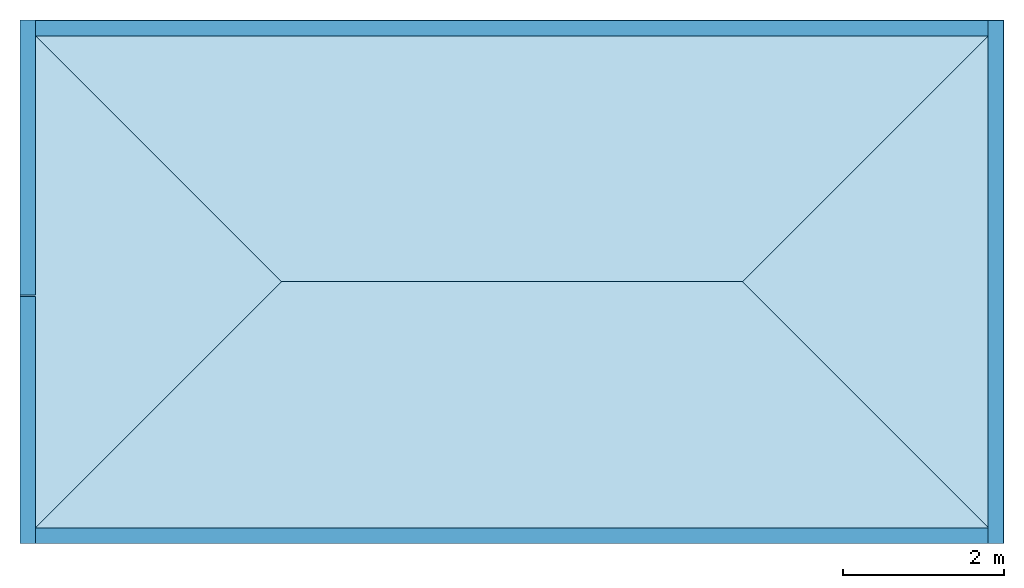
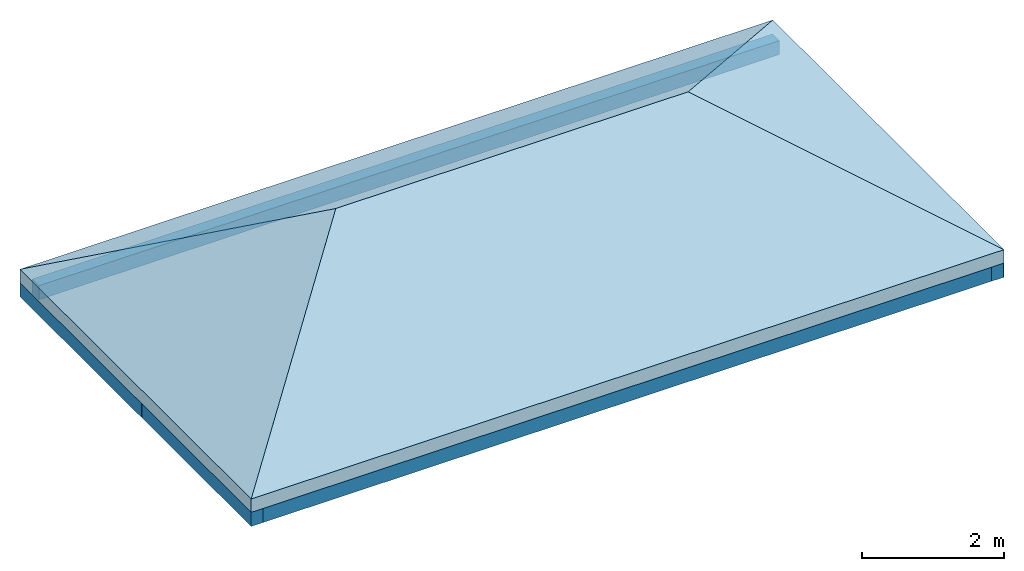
# One storey: 5 beams, 4 slabs, 6 elements without a shape of their own.
"""IFC2X3 building model written with IfcOpenShell, lengths in metres."""

import ifcopenshell
import ifcopenshell.guid

model = None  # the IFC model being written
_history = None  # IfcOwnerHistory: only IFC2X3 demands one
_inside = {}  # id of a spatial element -> (the spatial element, [elements in it])
_under = {}  # id of a project, library or spatial element -> (it, [spatial elements below it])
_declared = {}  # id of a project -> (the project, [libraries it declares])
_typed = {}  # id of a type object -> (the type object, [elements of that type])
_made_of = {}  # id of a material, layer set ... -> (it, [elements and type objects made of it])


def new_model(schema):
    """Start an empty IFC model of exactly this schema.

    Asked for "IFC4X3", IfcOpenShell would pick the latest addendum, in which some entities
    have other attributes; the version numbers below select the first issue.
    IFC2X3 requires an IfcOwnerHistory on every rooted entity: one is made here for all.
    """
    global model, _history
    if schema == "IFC4X3":
        model = ifcopenshell.file(schema_version=(4, 3, 0, 0))
    else:
        model = ifcopenshell.file(schema=schema)
    _inside.clear()
    _under.clear()
    _declared.clear()
    _typed.clear()
    _made_of.clear()
    _history = None
    if model.schema == "IFC2X3":
        org = make("IfcOrganization", Name="unknown")
        user = make(
            "IfcPersonAndOrganization",
            ThePerson=make("IfcPerson", FamilyName="unknown"),
            TheOrganization=org,
        )
        app = make(
            "IfcApplication",
            ApplicationDeveloper=org,
            Version="unknown",
            ApplicationFullName="unknown",
            ApplicationIdentifier="unknown",
        )
        _history = make(
            "IfcOwnerHistory",
            OwningUser=user,
            OwningApplication=app,
            ChangeAction="ADDED",
            CreationDate=0,
        )
    return model


def make(cls, **values):
    """One entity of the class cls with the attributes given. An attribute that is None is left unset."""
    return model.create_entity(
        cls, **{name: value for name, value in values.items() if value is not None}
    )


def entity(cls, *values):
    """Any entity or typed value of the class cls, its attributes in the order of the schema. None: left unset."""
    e = model.create_entity(cls)
    for i, value in enumerate(values):
        if value is not None:
            e[i] = value
    return e


def rooted(cls, **values):
    """An entity with a GlobalId (a new one), such as an element, a storey or a relation."""
    return make(cls, GlobalId=ifcopenshell.guid.new(), OwnerHistory=_history, **values)


def si_unit(unit_type, name, prefix=None):
    """IfcSIUnit, for example si_unit("LENGTHUNIT", "METRE", prefix="MILLI")."""
    return make("IfcSIUnit", UnitType=unit_type, Prefix=prefix, Name=name)


def converted_unit(unit_type, name, factor, base, dimensions=None, offset=None):
    """IfcConversionBasedUnit, such as the inch: factor (a typed value) times the base unit."""
    return make(
        "IfcConversionBasedUnit"
        if offset is None
        else "IfcConversionBasedUnitWithOffset",
        ConversionOffset=offset,
        Dimensions=None
        if dimensions is None
        else entity("IfcDimensionalExponents", *dimensions),
        UnitType=unit_type,
        Name=name,
        ConversionFactor=make(
            "IfcMeasureWithUnit", ValueComponent=factor, UnitComponent=base
        ),
    )


def derived_unit(unit_type, elements):
    """IfcDerivedUnit: a product of units, each with its exponent."""
    return make(
        "IfcDerivedUnit",
        Elements=[
            make("IfcDerivedUnitElement", Unit=unit, Exponent=power)
            for unit, power in elements
        ],
        UnitType=unit_type,
    )


def assignment(units):
    """IfcUnitAssignment: the units of a project."""
    return None if units is None else make("IfcUnitAssignment", Units=units)


def point(xyz):
    """IfcCartesianPoint."""
    return None if xyz is None else make("IfcCartesianPoint", Coordinates=xyz)


def direction(xyz):
    """IfcDirection."""
    return None if xyz is None else make("IfcDirection", DirectionRatios=xyz)


def frame(location, z_axis=None, x_axis=None):
    """IfcAxis2Placement3D, a coordinate frame: its origin and axes. An axis left out is left unset."""
    return make(
        "IfcAxis2Placement3D",
        Location=point(location),
        Axis=direction(z_axis),
        RefDirection=direction(x_axis),
    )


def frame_2d(location, x_axis=None):
    """IfcAxis2Placement2D, a coordinate frame in the plane: its origin and x axis."""
    return make(
        "IfcAxis2Placement2D", Location=point(location), RefDirection=direction(x_axis)
    )


def origin():
    """The frame at (0, 0, 0) with its axes left unset."""
    return frame((0.0, 0.0, 0.0))


def origin_2d_with_axis():
    """The frame at (0, 0) in the plane with the x axis (1, 0) written out."""
    return frame_2d((0.0, 0.0), x_axis=(1.0, 0.0))


def place(relative_to, where):
    """IfcLocalPlacement: puts the frame where relative to a parent placement (None: the world)."""
    return make(
        "IfcLocalPlacement", PlacementRelTo=relative_to, RelativePlacement=where
    )


def context(
    kind, dimensions, precision=None, world=None, true_north=None, identifier=None
):
    """IfcGeometricRepresentationContext, for example the 3D "Model" context."""
    return make(
        "IfcGeometricRepresentationContext",
        ContextIdentifier=identifier,
        ContextType=kind,
        CoordinateSpaceDimension=dimensions,
        Precision=precision,
        WorldCoordinateSystem=world,
        TrueNorth=true_north,
    )


def subcontext(parent, identifier, kind, view, scale=None):
    """IfcGeometricRepresentationSubContext, for example "Body" below "Model"."""
    return make(
        "IfcGeometricRepresentationSubContext",
        ContextIdentifier=identifier,
        ContextType=kind,
        ParentContext=parent,
        TargetScale=scale,
        TargetView=view,
    )


def project(units=None, contexts=None):
    """IfcProject with its units and contexts."""
    return rooted(
        "IfcProject",
        Name="project",
        RepresentationContexts=contexts,
        UnitsInContext=assignment(units),
    )


def spatial(cls, under=None, at=None, **own):
    """A site, building, storey or space (cls), placed at a placement, below another one or the project."""
    s = rooted(cls, ObjectPlacement=at, **own)
    if under is not None:
        _under.setdefault(under.id(), (under, []))[1].append(s)
    return s


def polyline(points):
    """IfcPolyline through the points."""
    return make("IfcPolyline", Points=[point(p) for p in points])


def profile(cls, at=None, kind="AREA", **sizes):
    """A parametric profile (cls). Its sizes go by their IFC names, for example OverallWidth=200.0."""
    return make(cls, ProfileType=kind, Position=at, **sizes)


def rectangle(**sizes):
    """IfcRectangleProfileDef."""
    return profile("IfcRectangleProfileDef", **sizes)


def outline(outer, holes=None, kind="AREA"):
    """IfcArbitraryClosedProfileDef: a profile drawn as a closed curve; with holes, ...WithVoids."""
    if holes is None:
        return make("IfcArbitraryClosedProfileDef", ProfileType=kind, OuterCurve=outer)
    return make(
        "IfcArbitraryProfileDefWithVoids",
        ProfileType=kind,
        OuterCurve=outer,
        InnerCurves=holes,
    )


def extrude(swept, where, along, depth):
    """IfcExtrudedAreaSolid: the profile swept, set in the frame where, extruded along a direction by depth."""
    return make(
        "IfcExtrudedAreaSolid",
        SweptArea=swept,
        Position=where,
        ExtrudedDirection=direction(along),
        Depth=depth,
    )


def shape(context_of_items, identifier, shape_type, items):
    """IfcShapeRepresentation: the items that make up one representation, for example the "Body"."""
    return make(
        "IfcShapeRepresentation",
        ContextOfItems=context_of_items,
        RepresentationIdentifier=identifier,
        RepresentationType=shape_type,
        Items=items,
    )


def material(Name=None, Category=None):
    """IfcMaterial."""
    return make("IfcMaterial", Name=Name, Category=Category)


def layer(
    of_material, thickness, ventilated=None, Name=None, Category=None, Priority=None
):
    """IfcMaterialLayer: one layer of a wall or slab, of a material (None: an air gap)."""
    return make(
        "IfcMaterialLayer",
        Material=of_material,
        LayerThickness=thickness,
        IsVentilated=ventilated,
        Name=Name,
        Category=Category,
        Priority=Priority,
    )


def layer_set(layers, Name=None):
    """IfcMaterialLayerSet."""
    return make("IfcMaterialLayerSet", MaterialLayers=layers, LayerSetName=Name)


def made_of(thing, what):
    """Note that an element or type object is made of a material, layer set ...; save() writes the relation."""
    if what is not None:
        _made_of.setdefault(what.id(), (what, []))[1].append(thing)
    return thing


def element(
    cls,
    number,
    at=None,
    inside=None,
    cuts=None,
    type_object=None,
    material=None,
    context=None,
    identifier="Body",
    shape_type=None,
    held_by="IfcProductDefinitionShape",
    body=None,
    shapes=None,
    **own,
):
    """One element of the class cls, such as IfcWall. Its Tag is "e" and its number.

    at: its placement. inside: the storey or other place that contains it. cuts: it is an
    opening in that element (IfcRelVoidsElement). A single representation is given by context,
    identifier, shape_type and body (its items); several are given by shapes. held_by: the class
    of the entity that holds the representations. save() writes the other relations.
    """
    e = rooted(cls, Tag="e%d" % number, ObjectPlacement=at, **own)
    if body is not None:
        shapes = [shape(context, identifier, shape_type, body)]
    if shapes is not None:
        e.Representation = make(held_by, Representations=shapes)
    if inside is not None:
        _inside.setdefault(inside.id(), (inside, []))[1].append(e)
    if cuts is not None:
        rooted(
            "IfcRelVoidsElement", RelatingBuildingElement=cuts, RelatedOpeningElement=e
        )
    if type_object is not None:
        _typed.setdefault(type_object.id(), (type_object, []))[1].append(e)
    return made_of(e, material)


def aggregate(whole, parts):
    """IfcRelAggregates: a whole, such as a stair, and the parts it consists of."""
    return rooted("IfcRelAggregates", RelatingObject=whole, RelatedObjects=parts)


def save(model, path):
    """Write the relations noted so far, then the file.

    IfcRelAggregates (storeys below a building ...), IfcRelContainedInSpatialStructure (elements
    in a storey), IfcRelDefinesByType, IfcRelAssociatesMaterial and IfcRelDeclares: one each for
    every whole, place, type object, material and project.
    """
    for whole, parts in _under.values():
        aggregate(whole, parts)
    for where, things in _inside.values():
        rooted(
            "IfcRelContainedInSpatialStructure",
            RelatedElements=things,
            RelatingStructure=where,
        )
    for kind, things in _typed.values():
        rooted("IfcRelDefinesByType", RelatedObjects=things, RelatingType=kind)
    for what, things in _made_of.values():
        rooted("IfcRelAssociatesMaterial", RelatedObjects=things, RelatingMaterial=what)
    for by, libraries in _declared.values():
        rooted("IfcRelDeclares", RelatingContext=by, RelatedDefinitions=libraries)
    model.write(path)


model = new_model("IFC2X3")

# Units and contexts
model_context = context("Model", 3, precision=1e-05, world=origin(), true_north=direction((6.12303176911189e-17, 1.0)))
context_of_model = context(None, 3, precision=1e-05, world=origin(), true_north=direction((6.12303176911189e-17, 1.0)))
body_context = subcontext(model_context, "Body", "Model", "MODEL_VIEW")
ifc_project = project(units=[si_unit("LENGTHUNIT", "METRE"), si_unit("AREAUNIT", "SQUARE_METRE"), si_unit("VOLUMEUNIT", "CUBIC_METRE"), converted_unit("PLANEANGLEUNIT", "DEGREE", entity("IfcRatioMeasure", 0.0174532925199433), si_unit("PLANEANGLEUNIT", "RADIAN"), dimensions=[0, 0, 0, 0, 0, 0, 0]), si_unit("MASSUNIT", "GRAM", prefix="KILO"), si_unit("TIMEUNIT", "SECOND"), si_unit("FREQUENCYUNIT", "HERTZ"), si_unit("THERMODYNAMICTEMPERATUREUNIT", "DEGREE_CELSIUS"), derived_unit("THERMALTRANSMITTANCEUNIT", [(si_unit("MASSUNIT", "GRAM", prefix="KILO"), 1), (si_unit("THERMODYNAMICTEMPERATUREUNIT", "KELVIN"), -1), (si_unit("TIMEUNIT", "SECOND"), -3)]), derived_unit("VOLUMETRICFLOWRATEUNIT", [(si_unit("LENGTHUNIT", "METRE"), 3), (si_unit("TIMEUNIT", "SECOND"), -1)]), si_unit("ELECTRICCURRENTUNIT", "AMPERE"), si_unit("ELECTRICVOLTAGEUNIT", "VOLT"), si_unit("POWERUNIT", "WATT"), si_unit("FORCEUNIT", "NEWTON", prefix="KILO"), si_unit("ILLUMINANCEUNIT", "LUX"), si_unit("LUMINOUSFLUXUNIT", "LUMEN"), si_unit("LUMINOUSINTENSITYUNIT", "CANDELA"), si_unit("PRESSUREUNIT", "PASCAL")], contexts=[model_context, context_of_model])

# Site, building, storey
site_placement = place(None, origin())
site = spatial("IfcSite", under=ifc_project, at=site_placement, Name="Default", CompositionType="ELEMENT")
building_placement = place(site_placement, origin())
building = spatial("IfcBuilding", under=site, at=building_placement, CompositionType="ELEMENT")
storey_placement = place(building_placement, frame((0.0, 0.0, 5.5999999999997)))
storey = spatial("IfcBuildingStorey", under=building, at=storey_placement, Name="0 - Sabliere", CompositionType="ELEMENT", Elevation=5.5999999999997)

# Assembly, beam
assembly_1_placement = place(storey_placement, origin())
assembly_1 = element("IfcElementAssembly", 1, at=assembly_1_placement, inside=storey, AssemblyPlace="NOTDEFINED", PredefinedType="BEAM_GRID")
ifc_material_1 = material(Name="Bois - Bois de construction de dimensions courantes")
beam_1_placement = place(assembly_1_placement, frame((-5.07821468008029, 2.29296020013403, 0.0), z_axis=(0.0, 0.0, 1.0), x_axis=(0.0, -1.0, 0.0)))
beam_1 = element("IfcBeam", 2, at=beam_1_placement, material=ifc_material_1, Name="Poutre - Bois d'oeuvre:184x235", ObjectType="Poutre - Bois d'oeuvre:184x235", context=body_context, shape_type="SweptSolid", body=[
    extrude(rectangle(XDim=0.2413, YDim=0.190500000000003, at=frame_2d((0.0, 5.41233724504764e-16), x_axis=(1.0, 0.0))), frame((0.000322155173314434, 0.0, -0.120650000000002), z_axis=(1.0, 0.0, 0.0), x_axis=(0.0, 0.0, -1.0)), (0.0, 0.0, 1.0), 3.064),
])
aggregate(assembly_1, [beam_1])

assembly_2_placement = place(storey_placement, origin())
assembly_2 = element("IfcElementAssembly", 3, at=assembly_2_placement, inside=storey, AssemblyPlace="NOTDEFINED", PredefinedType="BEAM_GRID")
beam_2_placement = place(assembly_2_placement, frame((-5.07796468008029, 5.72863804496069, 0.0), z_axis=(0.0, 0.0, 1.0), x_axis=(0.0, -1.0, 0.0)))
beam_2 = element("IfcBeam", 4, at=beam_2_placement, material=ifc_material_1, Name="Poutre - Bois d'oeuvre:184x235", ObjectType="Poutre - Bois d'oeuvre:184x235", context=body_context, shape_type="SweptSolid", body=[
    extrude(rectangle(XDim=0.241299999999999, YDim=0.190500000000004, at=origin_2d_with_axis()), frame((0.000161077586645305, 0.0, -0.120650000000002), z_axis=(1.0, 0.0, 0.0), x_axis=(0.0, 0.0, -1.0)), (0.0, 0.0, 1.0), 3.418),
])
aggregate(assembly_2, [beam_2])

assembly_3_placement = place(storey_placement, origin())
assembly_3 = element("IfcElementAssembly", 5, at=assembly_3_placement, inside=storey, AssemblyPlace="NOTDEFINED", PredefinedType="BEAM_GRID")
beam_3_placement = place(assembly_3_placement, frame((-5.1737146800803, -0.676184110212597, 0.0)))
beam_3 = element("IfcBeam", 6, at=beam_3_placement, material=ifc_material_1, Name="Poutre - Bois d'oeuvre:184x235", ObjectType="Poutre - Bois d'oeuvre:184x235", context=body_context, shape_type="SweptSolid", body=[
    extrude(rectangle(XDim=0.241299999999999, YDim=0.190500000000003, at=frame_2d((0.0, 3.95239396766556e-14), x_axis=(1.0, 0.0))), frame((0.000499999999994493, 0.0, -0.120650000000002), z_axis=(1.0, 0.0, 0.0), x_axis=(0.0, 0.0, -1.0)), (0.0, 0.0, 1.0), 12.219),
])
aggregate(assembly_3, [beam_3])

assembly_4_placement = place(storey_placement, origin())
assembly_4 = element("IfcElementAssembly", 7, at=assembly_4_placement, inside=storey, AssemblyPlace="NOTDEFINED", PredefinedType="BEAM_GRID")
beam_4_placement = place(assembly_4_placement, frame((6.9417853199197, 5.72381588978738, 0.0), z_axis=(0.0, 0.0, 1.0), x_axis=(0.0, -1.0, 0.0)))
beam_4 = element("IfcBeam", 8, at=beam_4_placement, material=ifc_material_1, Name="Poutre - Bois d'oeuvre:184x235", ObjectType="Poutre - Bois d'oeuvre:184x235", context=body_context, shape_type="SweptSolid", body=[
    extrude(rectangle(XDim=0.241299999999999, YDim=0.190500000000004, at=origin_2d_with_axis()), frame((0.000250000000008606, 0.0, -0.120650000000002), z_axis=(1.0, 0.0, 0.0), x_axis=(0.0, 0.0, -1.0)), (0.0, 0.0, 1.0), 6.49500000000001),
])
aggregate(assembly_4, [beam_4])

assembly_5_placement = place(storey_placement, origin())
assembly_5 = element("IfcElementAssembly", 9, at=assembly_5_placement, inside=storey, AssemblyPlace="NOTDEFINED", PredefinedType="BEAM_GRID")
beam_5_placement = place(assembly_5_placement, frame((7.0372853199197, 5.62606588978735, 0.0), z_axis=(0.0, 0.0, 1.0), x_axis=(-1.0, 0.0, 0.0)))
beam_5 = element("IfcBeam", 10, at=beam_5_placement, material=ifc_material_1, Name="Poutre - Bois d'oeuvre:184x235", ObjectType="Poutre - Bois d'oeuvre:184x235", context=body_context, shape_type="SweptSolid", body=[
    extrude(rectangle(XDim=0.2413, YDim=0.190500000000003, at=frame_2d((0.0, 3.79002385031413e-14), x_axis=(1.0, 0.0))), frame((0.000124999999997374, 0.0, -0.120650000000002), z_axis=(1.0, 0.0, 0.0), x_axis=(0.0, 0.0, -1.0)), (0.0, 0.0, 1.0), 12.019),
])
aggregate(assembly_5, [beam_5])

# Roof, slabs
roof_placement = place(storey_placement, frame((-5.1737146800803, -0.771684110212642, 0.0)))
roof = element("IfcRoof", 11, at=roof_placement, inside=storey, Name="Toit de base:Toit - 200 mm", ObjectType="Toit de base:Toit - 200 mm", ShapeType="NOTDEFINED")
ifc_material_2 = material(Name="Toit par défaut")
ifc_layer = layer(ifc_material_2, 0.2)
ifc_layer_set = layer_set([ifc_layer], Name="Toit de base:Toit - 200 mm")
slab_1_placement = place(roof_placement, origin())
slab_1 = element("IfcSlab", 12, at=slab_1_placement, material=ifc_layer_set, Name="Toit de base:Toit - 200 mm", ObjectType="Toit de base:Toit - 200 mm", PredefinedType="ROOF", context=body_context, shape_type="SweptSolid", body=[
    extrude(outline(polyline([(1.87638837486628, 0.0), (-1.87638837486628, 3.25), (-1.87638837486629, -3.25), (1.87638837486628, 0.0)])), frame((1.625, 3.25000000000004, 0.938194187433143), z_axis=(-0.500000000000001, 0.0, 0.866025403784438), x_axis=(0.866025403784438, 0.0, 0.500000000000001)), (0.500000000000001, 0.0, 0.866025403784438), 0.230940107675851),
])
slab_2_placement = place(roof_placement, origin())
slab_2 = element("IfcSlab", 13, at=slab_2_placement, material=ifc_layer_set, Name="Toit de base:Toit - 200 mm", ObjectType="Toit de base:Toit - 200 mm", PredefinedType="ROOF", context=body_context, shape_type="SweptSolid", body=[
    extrude(outline(polyline([(-6.11, -1.87638837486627), (6.10999999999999, -1.8763883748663), (2.86, 1.87638837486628), (-2.86, 1.87638837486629), (-6.11, -1.87638837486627)])), frame((6.11, 1.62500000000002, 0.938194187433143), z_axis=(0.0, -0.5, 0.866025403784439), x_axis=(1.0, 0.0, 0.0)), (0.0, 0.5, 0.866025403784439), 0.230940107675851),
])
slab_3_placement = place(roof_placement, origin())
slab_3 = element("IfcSlab", 14, at=slab_3_placement, material=ifc_layer_set, Name="Toit de base:Toit - 200 mm", ObjectType="Toit de base:Toit - 200 mm", PredefinedType="ROOF", context=body_context, shape_type="SweptSolid", body=[
    extrude(outline(polyline([(1.87638837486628, -3.25000000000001), (1.87638837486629, 3.25), (-1.87638837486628, 0.0), (1.87638837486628, -3.25000000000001)])), frame((10.595, 3.25, 0.938194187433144), z_axis=(0.500000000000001, 0.0, 0.866025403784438), x_axis=(0.866025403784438, 0.0, -0.500000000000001)), (-0.500000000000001, 0.0, 0.866025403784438), 0.230940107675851),
])
slab_4_placement = place(roof_placement, origin())
slab_4 = element("IfcSlab", 15, at=slab_4_placement, material=ifc_layer_set, Name="Toit de base:Toit - 200 mm", ObjectType="Toit de base:Toit - 200 mm", PredefinedType="ROOF", context=body_context, shape_type="SweptSolid", body=[
    extrude(outline(polyline([(6.11, 1.87638837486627), (-6.10999999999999, 1.8763883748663), (-2.86, -1.87638837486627), (2.86, -1.87638837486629), (6.11, 1.87638837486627)])), frame((6.11, 4.87500000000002, 0.938194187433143), z_axis=(0.0, 0.500000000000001, 0.866025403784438), x_axis=(1.0, 0.0, 0.0)), (0.0, -0.500000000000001, 0.866025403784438), 0.230940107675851),
])
aggregate(roof, [slab_1, slab_2, slab_3, slab_4])

save(model, "model.ifc")
